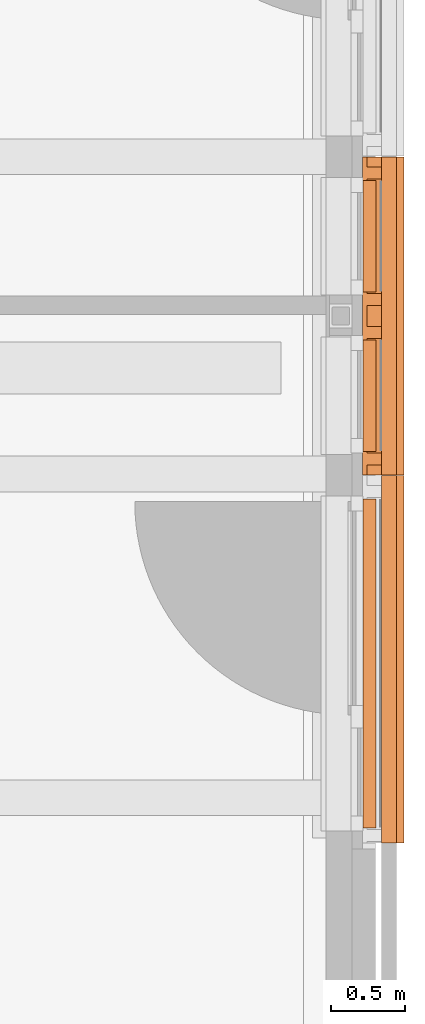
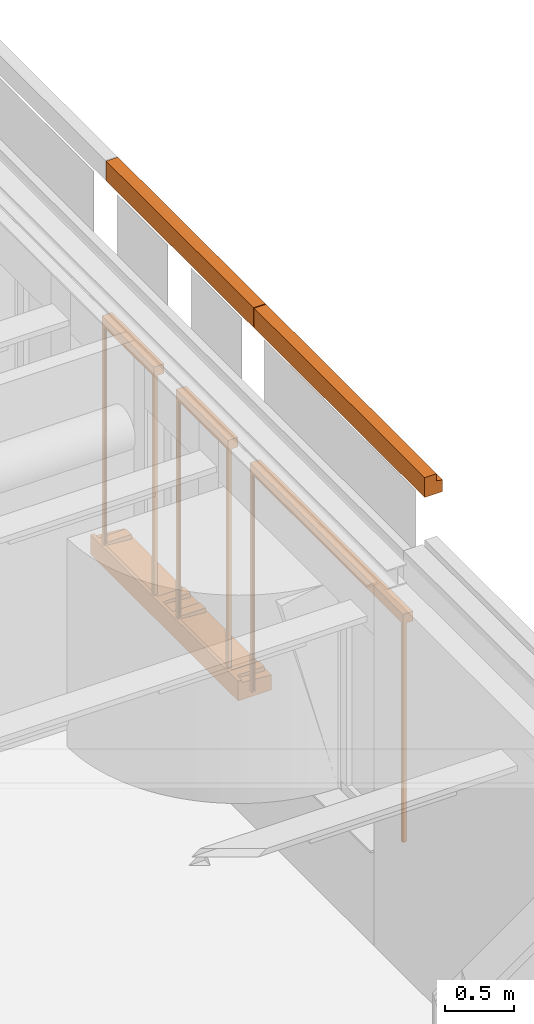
# One storey, part 97 of 128: 6 proxies.
"""IFC2X3 building model written with IfcOpenShell, lengths in millimetres."""

from ifc_helpers import new_model, entity, si_unit, converted_unit, derived_unit, direction, frame, frame_2d, origin, place, context, subcontext, project, spatial, polyline, circle_curve, parameter, trimmed, segment, composite_curve, rectangle, outline, extrude, source, transform, mapped, material, material_list, type_object, type_shapes, element, save


model = new_model("IFC2X3")

# Units and contexts
model_context = context("Model", 3, precision=0.01, world=origin(), true_north=direction((6.123031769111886e-17, 1.0)))
body_context = subcontext(model_context, "Body", "Model", "MODEL_VIEW")
ifc_project = project(units=[si_unit("LENGTHUNIT", "METRE", prefix="MILLI"), si_unit("AREAUNIT", "SQUARE_METRE"), si_unit("VOLUMEUNIT", "CUBIC_METRE"), converted_unit("PLANEANGLEUNIT", "DEGREE", entity("IfcRatioMeasure", 0.017453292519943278), si_unit("PLANEANGLEUNIT", "RADIAN"), dimensions=[0, 0, 0, 0, 0, 0, 0]), si_unit("MASSUNIT", "GRAM", prefix="KILO"), derived_unit("MASSDENSITYUNIT", [(si_unit("MASSUNIT", "GRAM", prefix="KILO"), 1), (si_unit("LENGTHUNIT", "METRE"), -3)]), derived_unit("IONCONCENTRATIONUNIT", [(si_unit("MASSUNIT", "GRAM", prefix="KILO"), 1), (si_unit("LENGTHUNIT", "METRE"), -3)]), derived_unit("MOMENTOFINERTIAUNIT", [(si_unit("LENGTHUNIT", "METRE"), 4)]), si_unit("TIMEUNIT", "SECOND"), si_unit("FREQUENCYUNIT", "HERTZ"), si_unit("THERMODYNAMICTEMPERATUREUNIT", "DEGREE_CELSIUS"), derived_unit("THERMALTRANSMITTANCEUNIT", [(si_unit("MASSUNIT", "GRAM", prefix="KILO"), 1), (si_unit("THERMODYNAMICTEMPERATUREUNIT", "KELVIN"), -1), (si_unit("TIMEUNIT", "SECOND"), -3)]), derived_unit("THERMALCONDUCTANCEUNIT", [(si_unit("MASSUNIT", "GRAM", prefix="KILO"), 1), (si_unit("THERMODYNAMICTEMPERATUREUNIT", "KELVIN"), -1), (si_unit("TIMEUNIT", "SECOND"), -3), (si_unit("LENGTHUNIT", "METRE"), 1)]), derived_unit("VOLUMETRICFLOWRATEUNIT", [(si_unit("LENGTHUNIT", "METRE"), 3), (si_unit("TIMEUNIT", "SECOND"), -1)]), derived_unit("MASSFLOWRATEUNIT", [(si_unit("MASSUNIT", "GRAM", prefix="KILO"), 1), (si_unit("TIMEUNIT", "SECOND"), -1)]), derived_unit("ROTATIONALFREQUENCYUNIT", [(si_unit("TIMEUNIT", "SECOND"), -1)]), si_unit("ELECTRICCURRENTUNIT", "AMPERE"), si_unit("ELECTRICVOLTAGEUNIT", "VOLT"), si_unit("POWERUNIT", "WATT"), si_unit("FORCEUNIT", "NEWTON", prefix="KILO"), si_unit("ILLUMINANCEUNIT", "LUX"), si_unit("LUMINOUSFLUXUNIT", "LUMEN"), si_unit("LUMINOUSINTENSITYUNIT", "CANDELA"), derived_unit("USERDEFINED", [(si_unit("MASSUNIT", "GRAM", prefix="KILO"), -1), (si_unit("LENGTHUNIT", "METRE"), -2), (si_unit("TIMEUNIT", "SECOND"), 3), (si_unit("LUMINOUSFLUXUNIT", "LUMEN"), 1)]), derived_unit("USERDEFINED", [(si_unit("MASSUNIT", "GRAM", prefix="KILO"), 1), (si_unit("TIMEUNIT", "SECOND"), -3), (si_unit("LENGTHUNIT", "METRE"), 3), (si_unit("ELECTRICCURRENTUNIT", "AMPERE"), -2)]), derived_unit("SOUNDPOWERUNIT", [(si_unit("MASSUNIT", "GRAM", prefix="KILO"), 1), (si_unit("TIMEUNIT", "SECOND"), -3), (si_unit("LENGTHUNIT", "METRE"), 2)]), derived_unit("SOUNDPRESSUREUNIT", [(si_unit("MASSUNIT", "GRAM", prefix="KILO"), 1), (si_unit("LENGTHUNIT", "METRE"), -1), (si_unit("TIMEUNIT", "SECOND"), -2)]), derived_unit("LINEARVELOCITYUNIT", [(si_unit("LENGTHUNIT", "METRE"), 1), (si_unit("TIMEUNIT", "SECOND"), -1)]), si_unit("PRESSUREUNIT", "PASCAL"), derived_unit("USERDEFINED", [(si_unit("MASSUNIT", "GRAM", prefix="KILO"), 1), (si_unit("LENGTHUNIT", "METRE"), -2), (si_unit("TIMEUNIT", "SECOND"), -2)]), derived_unit("LINEARFORCEUNIT", [(si_unit("MASSUNIT", "GRAM", prefix="KILO"), 1), (si_unit("TIMEUNIT", "SECOND"), -2)]), derived_unit("PLANARFORCEUNIT", [(si_unit("MASSUNIT", "GRAM", prefix="KILO"), 1), (si_unit("LENGTHUNIT", "METRE"), -1), (si_unit("TIMEUNIT", "SECOND"), -2)]), derived_unit("SPECIFICHEATCAPACITYUNIT", [(si_unit("THERMODYNAMICTEMPERATUREUNIT", "KELVIN"), -1), (si_unit("LENGTHUNIT", "METRE"), 2), (si_unit("TIMEUNIT", "SECOND"), -2)]), derived_unit("HEATINGVALUEUNIT", [(si_unit("LENGTHUNIT", "METRE"), 2), (si_unit("TIMEUNIT", "SECOND"), -2)]), derived_unit("VAPORPERMEABILITYUNIT", [(si_unit("LENGTHUNIT", "METRE"), -1), (si_unit("TIMEUNIT", "SECOND"), 1)]), derived_unit("DYNAMICVISCOSITYUNIT", [(si_unit("MASSUNIT", "GRAM", prefix="KILO"), 1), (si_unit("TIMEUNIT", "SECOND"), -1), (si_unit("LENGTHUNIT", "METRE"), -1)]), derived_unit("THERMALEXPANSIONCOEFFICIENTUNIT", [(si_unit("THERMODYNAMICTEMPERATUREUNIT", "KELVIN"), -1)]), derived_unit("MODULUSOFELASTICITYUNIT", [(si_unit("MASSUNIT", "GRAM", prefix="KILO"), 1), (si_unit("LENGTHUNIT", "METRE"), -1), (si_unit("TIMEUNIT", "SECOND"), -2)]), derived_unit("ISOTHERMALMOISTURECAPACITYUNIT", [(si_unit("LENGTHUNIT", "METRE"), 3), (si_unit("MASSUNIT", "GRAM", prefix="KILO"), -1)]), derived_unit("MOISTUREDIFFUSIVITYUNIT", [(si_unit("TIMEUNIT", "SECOND"), -1), (si_unit("LENGTHUNIT", "METRE"), 2)])], contexts=[model_context])

# Site, building, storey
site_placement = place(None, frame((0.0, 300.0, 0.0)))
site = spatial("IfcSite", under=ifc_project, at=site_placement, Name="<Kadastrale nummers>", CompositionType="ELEMENT")
building_placement = place(site_placement, origin())
building = spatial("IfcBuilding", under=site, at=building_placement, CompositionType="ELEMENT")
storey_placement = place(building_placement, frame((0.0, 0.0, 3560.0000331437)))
storey = spatial("IfcBuildingStorey", under=building, at=storey_placement, Name="01 eerste verdieping", CompositionType="ELEMENT", Elevation=3560.0000331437)

# Proxies
ifc_material_1 = material(Name="STAAL_RAL 7006")
ifc_material_2 = material(Name="<Unnamed>")
ifc_material_list = material_list([ifc_material_1, ifc_material_2])
building_element_proxy_type_1 = type_object("IfcBuildingElementProxyType", Name="31_DAT_Screen_zonwering_bak85:31_DAT_Screen_zonwering_bak85", PredefinedType="NOTDEFINED", material=ifc_material_list)
shared_shape_1 = source(origin(), body_context, "Body", "SweptSolid", [
    extrude(outline(polyline([(-60.69864841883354, -53.573897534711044), (20.695945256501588, -53.573897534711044), (20.695945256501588, 1.1216926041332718), (22.501351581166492, 1.1216926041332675), (22.501351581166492, 24.626102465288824), (17.501351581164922, 24.626102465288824), (17.501351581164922, 27.826102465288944), (-60.69864841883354, 27.826102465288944), (-60.69864841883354, -53.573897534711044)])), frame((2208.0, -29.62610246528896, 2752.501351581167), z_axis=(1.0, 0.0, 0.0), x_axis=(0.0, 0.0, -1.0)), (0.0, 0.0, 1.0), 1.9999999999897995),
    extrude(outline(polyline([(-55.83243227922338, -51.08259835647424), (29.167567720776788, -51.08259835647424), (29.167567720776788, 5.412991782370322), (27.362161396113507, 5.412991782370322), (27.362161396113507, -49.28259835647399), (-54.032432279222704, -49.28259835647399), (-54.032432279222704, 32.117401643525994), (24.16756772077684, 32.117401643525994), (24.16756772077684, 28.91740164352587), (29.167567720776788, 28.91740164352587), (29.167567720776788, 33.917401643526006), (-55.83243227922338, 33.917401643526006), (-55.83243227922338, -51.08259835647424)])), frame((0.0, -33.917401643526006, 2759.1675677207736), z_axis=(1.0, 0.0, 0.0), x_axis=(0.0, 0.0, -1.0)), (0.0, 0.0, 1.0), 2210.000000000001),
    extrude(outline(polyline([(-60.69864841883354, -53.573897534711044), (20.695945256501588, -53.573897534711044), (20.695945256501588, 1.1216926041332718), (22.501351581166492, 1.1216926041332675), (22.501351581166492, 24.626102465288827), (17.501351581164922, 24.626102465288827), (17.501351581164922, 27.826102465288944), (-60.69864841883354, 27.826102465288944), (-60.69864841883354, -53.573897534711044)])), frame((0.0, -29.62610246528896, 2752.501351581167), z_axis=(1.0, 0.0, 0.0), x_axis=(0.0, 0.0, -1.0)), (0.0, 0.0, 1.0), 1.999999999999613),
    extrude(rectangle(XDim=2170.0000000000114, YDim=1.163311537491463, at=frame_2d((0.0, -2.1094237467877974e-15), x_axis=(1.0, 0.0))), frame((1105.0, -20.037293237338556, 2730.0)), (0.0, 0.0, 1.0), 29.999964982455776),
    extrude(outline(composite_curve([segment(polyline([(-7.502327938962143, -23.023758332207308), (7.497672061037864, -23.023758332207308)]), True, "CONTINUOUS"), segment(trimmed(circle_curve(frame_2d((7.497672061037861, -21.523758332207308), x_axis=(0.0, -1.0)), 1.4999999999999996), [parameter(359.99999999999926)], [parameter(90.00000000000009)], True, "PARAMETER"), True, "CONTINUOUS"), segment(polyline([(8.997672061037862, -21.523758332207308), (8.997672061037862, 8.976241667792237)]), True, "CONTINUOUS"), segment(trimmed(circle_curve(frame_2d((5.99767206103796, 8.976241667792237), x_axis=(0.0, -1.0)), 3.0), [parameter(90.00000000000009)], [parameter(172.84454900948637)], True, "PARAMETER"), True, "CONTINUOUS"), segment(polyline([(6.371357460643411, 11.952877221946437), (2.232090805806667, 12.470504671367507)]), True, "CONTINUOUS"), segment(trimmed(circle_curve(frame_2d((2.1399803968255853, 11.733933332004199), x_axis=(0.0, -1.0)), 0.7423083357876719), [parameter(172.87199730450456)], [parameter(323.5235343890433)], True, "PARAMETER"), True, "CONTINUOUS"), segment(trimmed(circle_curve(frame_2d((-0.0023279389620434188, 8.976241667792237), x_axis=(0.0, -1.0)), 2.75), [parameter(217.47327986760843)], [parameter(141.78969998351)], True, "PARAMETER"), False, "CONTINUOUS"), segment(trimmed(circle_curve(frame_2d((-2.144636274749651, 11.733933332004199), x_axis=(0.0, -1.0)), 0.7423083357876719), [parameter(39.207114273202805)], [parameter(187.12800269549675)], True, "PARAMETER"), True, "CONTINUOUS"), segment(polyline([(-2.2367466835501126, 12.470504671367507), (-6.376013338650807, 11.95287722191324)]), True, "CONTINUOUS"), segment(trimmed(circle_curve(frame_2d((-6.002327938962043, 8.976241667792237), x_axis=(0.0, -1.0)), 3.0), [parameter(187.1554509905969)], [parameter(269.9999999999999)], True, "PARAMETER"), True, "CONTINUOUS"), segment(polyline([(-9.002327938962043, 8.976241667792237), (-9.002327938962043, -21.523758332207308)]), True, "CONTINUOUS"), segment(trimmed(circle_curve(frame_2d((-7.502327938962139, -21.523758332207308), x_axis=(0.0, -1.0)), 1.5000000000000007), [parameter(269.9999999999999)], [parameter(359.9999999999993)], True, "PARAMETER"), True, "CONTINUOUS")], self_intersect=False)), frame((20.0, -19.997672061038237, 2753.023723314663), z_axis=(1.0, 0.0, 0.0), x_axis=(0.0, 1.0, 0.0)), (0.0, 0.0, 1.0), 2170.000000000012),
    extrude(outline(polyline([(-14.638298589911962, -16.231574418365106), (-13.138298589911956, -16.231574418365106), (-13.138298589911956, 12.23272922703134), (-6.116685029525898, 12.23272922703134), (-6.116685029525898, -6.231574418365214), (-1.1166850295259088, -6.231574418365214), (-1.1166850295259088, -4.769580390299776), (-4.579546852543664, -4.769580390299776), (-4.579546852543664, 12.23272922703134), (13.866111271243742, 12.23272922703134), (13.866111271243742, -4.769580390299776), (10.361701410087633, -4.769580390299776), (10.361701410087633, -6.2315744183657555), (15.36170141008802, -6.2315744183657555), (15.36170141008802, 13.7684255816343), (-14.638298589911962, 13.7684255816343), (-14.638298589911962, -16.231574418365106)])), frame((2196.231574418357, -14.638298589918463, 800.0), z_axis=(0.0, 0.0, 1.0), x_axis=(0.0, -1.0, 0.0)), (0.0, 0.0, 1.0), 1930.000000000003),
    extrude(outline(polyline([(-16.231574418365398, -14.638298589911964), (13.768425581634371, -14.638298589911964), (13.76842558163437, 15.361701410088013), (-6.231574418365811, 15.361701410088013), (-6.231574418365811, 10.361701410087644), (-4.769580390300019, 10.361701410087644), (-4.769580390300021, 13.866111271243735), (12.2327292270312, 13.866111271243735), (12.2327292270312, -4.57954685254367), (-4.769580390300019, -4.57954685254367), (-4.769580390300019, -1.1166850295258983), (-6.231574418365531, -1.1166850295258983), (-6.231574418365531, -6.116685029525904), (12.232729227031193, -6.116685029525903), (12.232729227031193, -13.138298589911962), (-16.231574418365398, -13.138298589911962), (-16.231574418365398, -14.638298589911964)])), frame((13.768425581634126, -14.638298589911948, 800.0), z_axis=(0.0, 0.0, 1.0), x_axis=(-1.0, 0.0, 0.0)), (0.0, 0.0, 1.0), 1930.0000000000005),
])
type_shapes(building_element_proxy_type_1, [shared_shape_1])
proxy_1_placement = place(storey_placement, frame((48751.0, 5860.0, 100.00000187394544), z_axis=(0.0, 0.0, 1.0), x_axis=(0.0, 1.0, 0.0)))
element("IfcBuildingElementProxy", 1, at=proxy_1_placement, inside=storey, type_object=building_element_proxy_type_1, material=ifc_material_list, Name="31_DAT_Screen_zonwering_bak85:31_DAT_Screen_zonwering_bak85", ObjectType="31_DAT_Screen_zonwering_bak85:31_DAT_Screen_zonwering_bak85", context=body_context, shape_type="MappedRepresentation", body=[
    mapped(shared_shape_1, transform((0.0, 0.0, 0.0), scale=1.0)),
])
ifc_material_3 = material(Name="ISR_Beton_prefab")
building_element_proxy_type_2 = type_object("IfcBuildingElementProxyType", Name="29_DAT_Prefab betonband afgeschuind:29_DAT_Prefab betonband afgeschuind", PredefinedType="NOTDEFINED", material=ifc_material_3)
shared_shape_2 = source(origin(), body_context, "Body", "SweptSolid", [
    extrude(outline(polyline([(-94.16666666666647, -83.33333333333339), (80.83333333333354, -83.33333333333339), (80.83333333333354, 16.66666666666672), (18.33333333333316, 16.666666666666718), (8.333333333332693, 66.66666666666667), (-94.16666666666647, 66.66666666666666), (-94.16666666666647, -83.33333333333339)])), frame((0.0, 16.66666666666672, -18.33333333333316), z_axis=(1.0, 0.0, 0.0), x_axis=(0.0, 0.0, 1.0)), (0.0, 0.0, 1.0), 2467.0000000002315),
])
type_shapes(building_element_proxy_type_2, [shared_shape_2])
proxy_2_placement = place(storey_placement, frame((48975.0, 5760.0, 4077.4999668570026), z_axis=(0.0, 0.0, 1.0), x_axis=(0.0, 1.0, 0.0)))
element("IfcBuildingElementProxy", 2, at=proxy_2_placement, inside=storey, type_object=building_element_proxy_type_2, material=ifc_material_3, Name="29_DAT_Prefab betonband afgeschuind:29_DAT_Prefab betonband afgeschuind", ObjectType="29_DAT_Prefab betonband afgeschuind:29_DAT_Prefab betonband afgeschuind", context=body_context, shape_type="MappedRepresentation", body=[
    mapped(shared_shape_2, transform((0.0, 0.0, 0.0), scale=1.0)),
])
building_element_proxy_type_3 = type_object("IfcBuildingElementProxyType", Name="31_DAT_Screen_zonwering_bak85:31_DAT_Screen_zonwering_bak85", PredefinedType="NOTDEFINED", material=ifc_material_list)
shared_shape_3 = source(origin(), body_context, "Body", "SweptSolid", [
    extrude(outline(polyline([(-60.69864841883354, -53.573897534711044), (20.695945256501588, -53.573897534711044), (20.695945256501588, 1.1216926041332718), (22.501351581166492, 1.1216926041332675), (22.501351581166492, 24.626102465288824), (17.501351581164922, 24.626102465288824), (17.501351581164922, 27.826102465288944), (-60.69864841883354, 27.826102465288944), (-60.69864841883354, -53.573897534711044)])), frame((748.0, -29.62610246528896, 2752.501351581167), z_axis=(1.0, 0.0, 0.0), x_axis=(0.0, 0.0, -1.0)), (0.0, 0.0, 1.0), 1.9999999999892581),
    extrude(outline(polyline([(-55.83243227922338, -51.08259835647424), (29.167567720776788, -51.08259835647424), (29.167567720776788, 5.412991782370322), (27.362161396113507, 5.412991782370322), (27.362161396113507, -49.28259835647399), (-54.032432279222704, -49.28259835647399), (-54.032432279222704, 32.117401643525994), (24.16756772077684, 32.117401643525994), (24.16756772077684, 28.91740164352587), (29.167567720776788, 28.91740164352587), (29.167567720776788, 33.917401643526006), (-55.83243227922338, 33.917401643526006), (-55.83243227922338, -51.08259835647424)])), frame((0.0, -33.917401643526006, 2759.1675677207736), z_axis=(1.0, 0.0, 0.0), x_axis=(0.0, 0.0, -1.0)), (0.0, 0.0, 1.0), 749.9999999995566),
    extrude(outline(polyline([(-60.69864841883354, -53.573897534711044), (20.695945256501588, -53.573897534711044), (20.695945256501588, 1.1216926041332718), (22.501351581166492, 1.1216926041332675), (22.501351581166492, 24.626102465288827), (17.501351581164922, 24.626102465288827), (17.501351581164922, 27.826102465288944), (-60.69864841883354, 27.826102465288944), (-60.69864841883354, -53.573897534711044)])), frame((0.0, -29.62610246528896, 2752.501351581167), z_axis=(1.0, 0.0, 0.0), x_axis=(0.0, 0.0, -1.0)), (0.0, 0.0, 1.0), 1.999999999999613),
    extrude(rectangle(XDim=709.9999999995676, YDim=1.163311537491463, at=frame_2d((0.0, -2.1094237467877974e-15), x_axis=(1.0, 0.0))), frame((375.0, -20.037293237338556, 2730.0)), (0.0, 0.0, 1.0), 61.996041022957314),
    extrude(outline(composite_curve([segment(polyline([(-7.502327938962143, -23.023758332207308), (7.497672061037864, -23.023758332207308)]), True, "CONTINUOUS"), segment(trimmed(circle_curve(frame_2d((7.497672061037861, -21.523758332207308), x_axis=(0.0, -1.0)), 1.4999999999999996), [parameter(359.99999999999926)], [parameter(90.00000000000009)], True, "PARAMETER"), True, "CONTINUOUS"), segment(polyline([(8.997672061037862, -21.523758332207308), (8.997672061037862, 8.976241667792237)]), True, "CONTINUOUS"), segment(trimmed(circle_curve(frame_2d((5.99767206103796, 8.976241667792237), x_axis=(0.0, -1.0)), 3.0), [parameter(90.00000000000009)], [parameter(172.84454900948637)], True, "PARAMETER"), True, "CONTINUOUS"), segment(polyline([(6.371357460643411, 11.952877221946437), (2.232090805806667, 12.470504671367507)]), True, "CONTINUOUS"), segment(trimmed(circle_curve(frame_2d((2.1399803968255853, 11.733933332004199), x_axis=(0.0, -1.0)), 0.7423083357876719), [parameter(172.87199730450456)], [parameter(323.5235343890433)], True, "PARAMETER"), True, "CONTINUOUS"), segment(trimmed(circle_curve(frame_2d((-0.0023279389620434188, 8.976241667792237), x_axis=(0.0, -1.0)), 2.75), [parameter(217.47327986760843)], [parameter(141.78969998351)], True, "PARAMETER"), False, "CONTINUOUS"), segment(trimmed(circle_curve(frame_2d((-2.144636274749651, 11.733933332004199), x_axis=(0.0, -1.0)), 0.7423083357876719), [parameter(39.207114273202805)], [parameter(187.12800269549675)], True, "PARAMETER"), True, "CONTINUOUS"), segment(polyline([(-2.2367466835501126, 12.470504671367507), (-6.376013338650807, 11.95287722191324)]), True, "CONTINUOUS"), segment(trimmed(circle_curve(frame_2d((-6.002327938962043, 8.976241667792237), x_axis=(0.0, -1.0)), 3.0), [parameter(187.1554509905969)], [parameter(269.9999999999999)], True, "PARAMETER"), True, "CONTINUOUS"), segment(polyline([(-9.002327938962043, 8.976241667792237), (-9.002327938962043, -21.523758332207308)]), True, "CONTINUOUS"), segment(trimmed(circle_curve(frame_2d((-7.502327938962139, -21.523758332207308), x_axis=(0.0, -1.0)), 1.5000000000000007), [parameter(269.9999999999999)], [parameter(359.9999999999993)], True, "PARAMETER"), True, "CONTINUOUS")], self_intersect=False)), frame((20.0, -19.997672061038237, 2785.0197993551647), z_axis=(1.0, 0.0, 0.0), x_axis=(0.0, 1.0, 0.0)), (0.0, 0.0, 1.0), 709.9999999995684),
    extrude(outline(polyline([(-14.638298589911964, -16.231574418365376), (-13.138298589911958, -16.231574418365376), (-13.138298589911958, 12.232729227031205), (-6.116685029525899, 12.232729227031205), (-6.116685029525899, -6.231574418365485), (-1.116685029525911, -6.231574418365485), (-1.116685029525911, -4.769580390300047), (-4.579546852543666, -4.769580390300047), (-4.579546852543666, 12.23272922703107), (13.86611127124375, 12.23272922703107), (13.86611127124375, -4.769580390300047), (10.36170141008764, -4.769580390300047), (10.36170141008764, -6.2315744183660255), (15.36170141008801, -6.2315744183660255), (15.36170141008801, 13.768425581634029), (-14.638298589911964, 13.768425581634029), (-14.638298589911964, -16.231574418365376)])), frame((736.2315744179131, -14.638298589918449, 800.0), z_axis=(0.0, 0.0, 1.0), x_axis=(0.0, -1.0, 0.0)), (0.0, 0.0, 1.0), 1930.000000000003),
    extrude(outline(polyline([(-16.231574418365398, -14.638298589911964), (13.768425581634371, -14.638298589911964), (13.76842558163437, 15.361701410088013), (-6.231574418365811, 15.361701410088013), (-6.231574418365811, 10.361701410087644), (-4.769580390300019, 10.361701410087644), (-4.769580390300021, 13.866111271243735), (12.2327292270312, 13.866111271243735), (12.2327292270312, -4.57954685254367), (-4.769580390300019, -4.57954685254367), (-4.769580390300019, -1.1166850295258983), (-6.231574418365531, -1.1166850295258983), (-6.231574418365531, -6.116685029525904), (12.232729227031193, -6.116685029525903), (12.232729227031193, -13.138298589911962), (-16.231574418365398, -13.138298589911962), (-16.231574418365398, -14.638298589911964)])), frame((13.768425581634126, -14.638298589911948, 800.0), z_axis=(0.0, 0.0, 1.0), x_axis=(-1.0, 0.0, 0.0)), (0.0, 0.0, 1.0), 1930.0000000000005),
])
type_shapes(building_element_proxy_type_3, [shared_shape_3])
for number, where, z_axis, x_axis, name in (
    (3, (48751.0, 9460.0, 100.00000187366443), (0.0, 0.0, 1.0), (0.0, 1.0, 0.0), "31_DAT_Screen_zonwering_bak85:31_DAT_Screen_zonwering_bak85"),
    (4, (48751.0, 8390.0, 100.00000187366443), (0.0, 0.0, 1.0), (0.0, 1.0, 0.0), "31_DAT_Screen_zonwering_bak85:31_DAT_Screen_zonwering_bak85"),
):
    element("IfcBuildingElementProxy", number, at=place(storey_placement, frame(where, z_axis=z_axis, x_axis=x_axis)), inside=storey, type_object=building_element_proxy_type_3, material=ifc_material_list, Name=name, ObjectType="31_DAT_Screen_zonwering_bak85:31_DAT_Screen_zonwering_bak85", context=body_context, shape_type="MappedRepresentation", body=[
        mapped(shared_shape_3, transform((0.0, 0.0, 0.0), scale=1.0)),
    ])
building_element_proxy_type_4 = type_object("IfcBuildingElementProxyType", Name="29_DAT_Prefab betonnen waterslag lang:29 dubbel 1", PredefinedType="NOTDEFINED", material=ifc_material_3)
shared_shape_4 = source(origin(), body_context, "Body", "SweptSolid", [
    extrude(outline(polyline([(-16.052237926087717, -115.0), (26.113434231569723, -115.0), (5.9910416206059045, 115.0), (-16.052237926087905, 115.0), (-16.052237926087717, -115.0)])), frame((1987.0, 75.0, -16.05223792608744), z_axis=(1.0, 0.0, 0.0), x_axis=(0.0, 0.0, -1.0)), (0.0, 0.0, 1.0), 79.99999999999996),
    extrude(outline(polyline([(-16.052237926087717, -115.0), (26.113434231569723, -115.0), (5.9910416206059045, 115.0), (-16.052237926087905, 115.0), (-16.052237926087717, -115.0)])), frame((1137.0, 75.0, -16.05223792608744), z_axis=(1.0, 0.0, 0.0), x_axis=(0.0, 0.0, -1.0)), (0.0, 0.0, 1.0), 79.99999999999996),
    extrude(outline(polyline([(-16.052237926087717, -115.0), (26.113434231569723, -115.0), (5.9910416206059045, 115.0), (-16.052237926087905, 115.0), (-16.052237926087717, -115.0)])), frame((917.0, 75.0, -16.05223792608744), z_axis=(1.0, 0.0, 0.0), x_axis=(0.0, 0.0, -1.0)), (0.0, 0.0, 1.0), 79.99999999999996),
    extrude(outline(polyline([(-16.052237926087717, -115.0), (26.113434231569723, -115.0), (5.9910416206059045, 115.0), (-16.052237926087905, 115.0), (-16.052237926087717, -115.0)])), frame((67.0, 75.0, -16.05223792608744), z_axis=(1.0, 0.0, 0.0), x_axis=(0.0, 0.0, -1.0)), (0.0, 0.0, 1.0), 80.00000000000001),
    extrude(outline(composite_curve([segment(polyline([(-140.0, -95.7340207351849), (-110.0, -95.7340207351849)]), True, "CONTINUOUS"), segment(polyline([(-110.0, -95.7340207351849), (-110.0, -73.7340207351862)]), True, "CONTINUOUS"), segment(polyline([(-110.0, -73.7340207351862), (140.0, -51.861854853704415)]), True, "CONTINUOUS"), segment(polyline([(140.0, -51.86185485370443), (140.0, 79.26597926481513)]), True, "CONTINUOUS"), segment(polyline([(140.0, 79.26597926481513), (115.0, 79.26597926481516)]), True, "CONTINUOUS"), segment(trimmed(circle_curve(frame_2d((110.0, 79.26597926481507), x_axis=(1.0, 0.0)), 5.000000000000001), [parameter(179.99999999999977)], [parameter(4.0711099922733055e-13)], True, "PARAMETER"), False, "CONTINUOUS"), segment(polyline([(105.0, 79.26597926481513), (-140.0, 79.26597926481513)]), True, "CONTINUOUS"), segment(polyline([(-140.0, 79.26597926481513), (-140.0, -95.7340207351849)]), True, "CONTINUOUS")], self_intersect=False)), frame((0.0, 80.0, -95.73402073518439), z_axis=(1.0, 0.0, 0.0), x_axis=(0.0, -1.0, 0.0)), (0.0, 0.0, 1.0), 2134.0000000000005),
])
type_shapes(building_element_proxy_type_4, [shared_shape_4])
proxy_3_placement = place(storey_placement, frame((48965.0, 8233.0, 890.0000018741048), z_axis=(0.0, 0.0, 1.0), x_axis=(0.0, 1.0, 0.0)))
element("IfcBuildingElementProxy", 5, at=proxy_3_placement, inside=storey, type_object=building_element_proxy_type_4, material=ifc_material_3, Name="29_DAT_Prefab betonnen waterslag lang:29 dubbel 1", ObjectType="29_DAT_Prefab betonnen waterslag lang:29 dubbel 1", context=body_context, shape_type="MappedRepresentation", body=[
    mapped(shared_shape_4, transform((0.0, 0.0, 0.0), scale=1.0)),
])
building_element_proxy_type_5 = type_object("IfcBuildingElementProxyType", Name="29_DAT_Prefab betonband afgeschuind:29_DAT_Prefab betonband afgeschuind", PredefinedType="NOTDEFINED", material=ifc_material_3)
shared_shape_5 = source(origin(), body_context, "Body", "SweptSolid", [
    extrude(outline(polyline([(-94.16666666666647, -83.33333333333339), (80.83333333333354, -83.33333333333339), (80.83333333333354, 16.66666666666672), (18.33333333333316, 16.666666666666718), (8.333333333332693, 66.66666666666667), (-94.16666666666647, 66.66666666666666), (-94.16666666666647, -83.33333333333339)])), frame((0.0, 16.66666666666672, -18.33333333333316), z_axis=(1.0, 0.0, 0.0), x_axis=(0.0, 0.0, 1.0)), (0.0, 0.0, 1.0), 2133.999999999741),
])
type_shapes(building_element_proxy_type_5, [shared_shape_5])
proxy_4_placement = place(storey_placement, frame((48975.0, 8233.0, 4077.499966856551), z_axis=(0.0, 0.0, 1.0), x_axis=(0.0, 1.0, 0.0)))
element("IfcBuildingElementProxy", 6, at=proxy_4_placement, inside=storey, type_object=building_element_proxy_type_5, material=ifc_material_3, Name="29_DAT_Prefab betonband afgeschuind:29_DAT_Prefab betonband afgeschuind", ObjectType="29_DAT_Prefab betonband afgeschuind:29_DAT_Prefab betonband afgeschuind", context=body_context, shape_type="MappedRepresentation", body=[
    mapped(shared_shape_5, transform((0.0, 0.0, 0.0), scale=1.0)),
])

save(model, "model.ifc")
